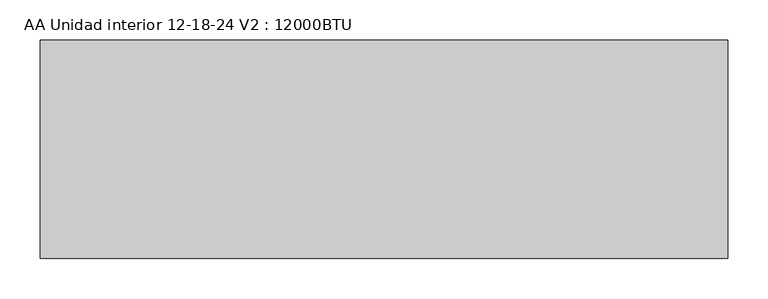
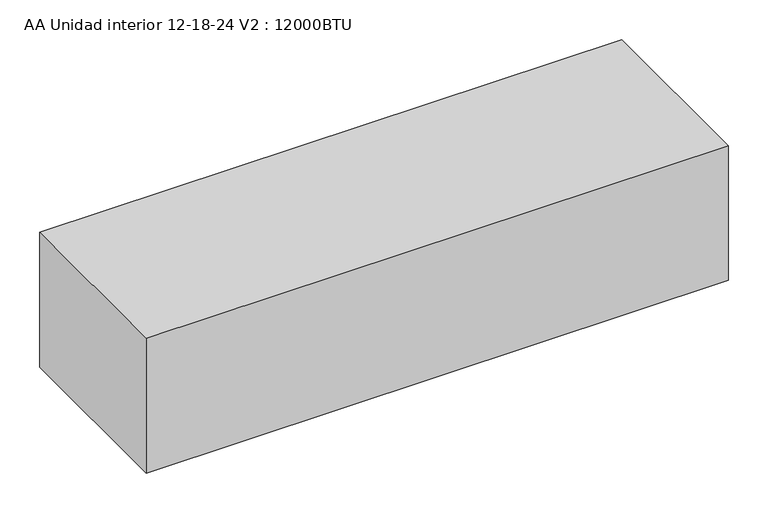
"""IFC4 building model written with IfcOpenShell, lengths in millimetres: proxy geometry, AA Unidad interior 12-18-24 V2 : 12000BTU."""

from ifc_helpers import new_model, si_unit, origin, origin_with_axes, place, context, project, spatial, polyline, outline, extrude, source, transform, mapped, element, save


def aa_unidad_interior_12_18_24_v2_12000btu_578df6c9(model_context):
    return source(origin(), model_context, "Body", "SweptSolid", [
        extrude(outline(polyline([(425.0, 135.0), (425.0, -135.0), (-425.0, -135.0), (-425.0, 135.0), (425.0, 135.0)])), origin_with_axes(), (0.0, 0.0, 1.0), 208.0),
    ])


if __name__ == "__main__":
    model = new_model("IFC4")
    model_context = context("Model", 3, world=origin())
    ifc_project = project(units=[si_unit("LENGTHUNIT", "METRE", prefix="MILLI")], contexts=[model_context])
    site = spatial("IfcSite", under=ifc_project)
    building = spatial("IfcBuilding", under=site)
    placement = place(None, origin())
    aa_unidad_interior_12_18_24_v2_12000btu_shape = aa_unidad_interior_12_18_24_v2_12000btu_578df6c9(model_context)
    element("IfcBuildingElementProxy", 1, Name="AA Unidad interior 12-18-24 V2 : 12000BTU", ObjectType="AA Unidad interior 12-18-24 V2 : 12000BTU", at=placement, inside=building, context=model_context, shape_type="MappedRepresentation", body=[
        mapped(aa_unidad_interior_12_18_24_v2_12000btu_shape, transform((0.0, 0.0, 0.0), x_axis=(1.0, 0.0, 0.0), y_axis=(0.0, 1.0, 0.0), z_axis=(0.0, 0.0, 1.0))),
    ])
    save(model, "model.ifc")
